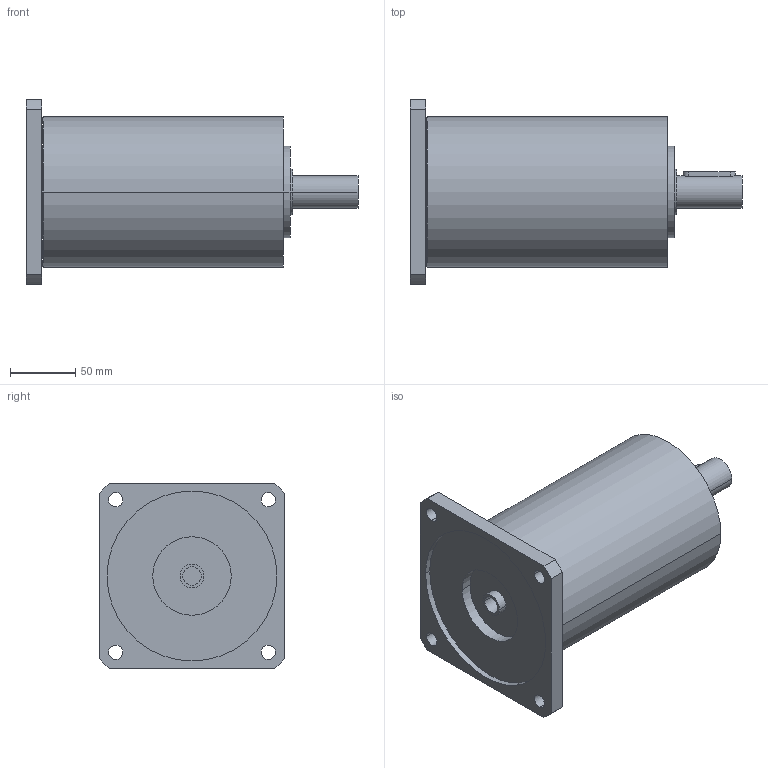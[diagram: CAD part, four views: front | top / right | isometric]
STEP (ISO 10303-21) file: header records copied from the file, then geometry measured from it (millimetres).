
FILE_DESCRIPTION(('CoCreate Modeling STEP Export'),'2;1');
FILE_NAME('GPR125_ig-48-64-80-100-140-196-245-343_25_B14_14_P08.stp','2014-08-26T14:20:46',(''),(''),'CoCreate Modeling STEP processor for AP214 (Solid Model)','CoCreate Modeling 16.00C 25-Feb-2009 (C) Parametric Technology GmbH','');
FILE_SCHEMA(('AUTOMOTIVE_DESIGN { 1 0 10303 214 1 1 1 1 }'));
Length unit declared in the file: millimetre
Products named in the file (2): GPR125_ig-48-64-80-100-140-196-245-343_25_B14_14_P08
Assembly tree (1 placements, depth 2):
  GPR125_ig-48-64-80-100-140-196-245-343_25_B14_14_P08
    GPR125_ig-48-64-80-100-140-196-245-343_25_B14_14_P08
Bounding box: 254 x 142 x 142 mm (x, y, z)
Volume: 2106066.7 mm3; surface area: 140607 mm2
Topology: 1 solids, 1 shells, 68 faces, 188 edges, 134 vertices
Faces by surface type: cylinder 42, plane 22, cone 4
Entity records: 1928 total; most frequent: ORIENTED_EDGE 372, CARTESIAN_POINT 363, DIRECTION 258, EDGE_CURVE 186, VERTEX_POINT 134, AXIS2_PLACEMENT_3D 97, EDGE_LOOP 90, FACE_OUTER_BOUND 68
